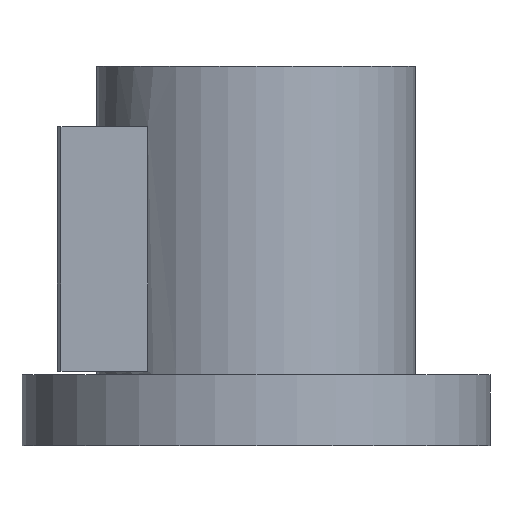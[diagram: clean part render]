
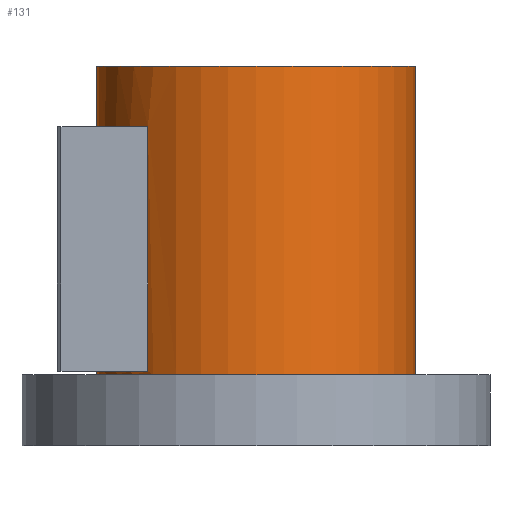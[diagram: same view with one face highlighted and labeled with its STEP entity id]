
A CAD part, front view. The second image highlights one B-rep face of the part: STEP entity #131.
In plain terms, the highlighted cylindrical face has radius 45 mm (diameter 90 mm), a full revolution.
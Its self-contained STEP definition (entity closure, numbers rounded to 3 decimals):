
#131=ADVANCED_FACE('',(#218,#219,#220),#161,.T.);
#161=CYLINDRICAL_SURFACE('',#550,45.);
#174=LINE('',#752,#196);
#175=LINE('',#756,#197);
#196=VECTOR('',#612,1.);
#197=VECTOR('',#615,1.);
#218=FACE_BOUND('',#263,.T.);
#219=FACE_BOUND('',#264,.T.);
#220=FACE_BOUND('',#265,.T.);
#263=EDGE_LOOP('',(#325));
#264=EDGE_LOOP('',(#326));
#265=EDGE_LOOP('',(#327,#328,#329,#330));
#325=ORIENTED_EDGE('',*,*,#467,.F.);
#326=ORIENTED_EDGE('',*,*,#468,.T.);
#327=ORIENTED_EDGE('',*,*,#469,.F.);
#328=ORIENTED_EDGE('',*,*,#470,.F.);
#329=ORIENTED_EDGE('',*,*,#471,.T.);
#330=ORIENTED_EDGE('',*,*,#472,.F.);
#425=VERTEX_POINT('',#746);
#426=VERTEX_POINT('',#748);
#427=VERTEX_POINT('',#750);
#428=VERTEX_POINT('',#751);
#429=VERTEX_POINT('',#753);
#430=VERTEX_POINT('',#755);
#467=EDGE_CURVE('',#425,#425,#517,.T.);
#468=EDGE_CURVE('',#426,#426,#518,.T.);
#469=EDGE_CURVE('',#427,#428,#519,.T.);
#470=EDGE_CURVE('',#429,#427,#174,.T.);
#471=EDGE_CURVE('',#429,#430,#520,.T.);
#472=EDGE_CURVE('',#428,#430,#175,.T.);
#517=CIRCLE('',#546,45.);
#518=CIRCLE('',#547,45.);
#519=CIRCLE('',#548,45.);
#520=CIRCLE('',#549,45.);
#546=AXIS2_PLACEMENT_3D('',#745,#606,#607);
#547=AXIS2_PLACEMENT_3D('',#747,#608,#609);
#548=AXIS2_PLACEMENT_3D('',#749,#610,#611);
#549=AXIS2_PLACEMENT_3D('',#754,#613,#614);
#550=AXIS2_PLACEMENT_3D('',#757,#616,#617);
#606=DIRECTION('',(0.,0.,1.));
#607=DIRECTION('',(1.,0.,0.));
#608=DIRECTION('',(0.,0.,1.));
#609=DIRECTION('',(1.,0.,0.));
#610=DIRECTION('',(0.,0.,-1.));
#611=DIRECTION('',(-1.,0.,0.));
#612=DIRECTION('',(0.,0.,1.));
#613=DIRECTION('',(0.,0.,-1.));
#614=DIRECTION('',(-1.,0.,0.));
#615=DIRECTION('',(0.,0.,-1.));
#616=DIRECTION('',(0.,0.,-1.));
#617=DIRECTION('',(-1.,0.,0.));
#745=CARTESIAN_POINT('',(0.,0.,107.));
#746=CARTESIAN_POINT('',(45.,0.,107.));
#747=CARTESIAN_POINT('',(0.,0.,20.));
#748=CARTESIAN_POINT('',(45.,0.,20.));
#749=CARTESIAN_POINT('',(0.,0.,90.));
#750=CARTESIAN_POINT('',(-30.5,-33.087,90.));
#751=CARTESIAN_POINT('',(-30.5,33.087,90.));
#752=CARTESIAN_POINT('',(-30.5,-33.087,107.));
#753=CARTESIAN_POINT('',(-30.5,-33.087,21.));
#754=CARTESIAN_POINT('',(0.,0.,21.));
#755=CARTESIAN_POINT('',(-30.5,33.087,21.));
#756=CARTESIAN_POINT('',(-30.5,33.087,107.));
#757=CARTESIAN_POINT('',(0.,0.,107.));
